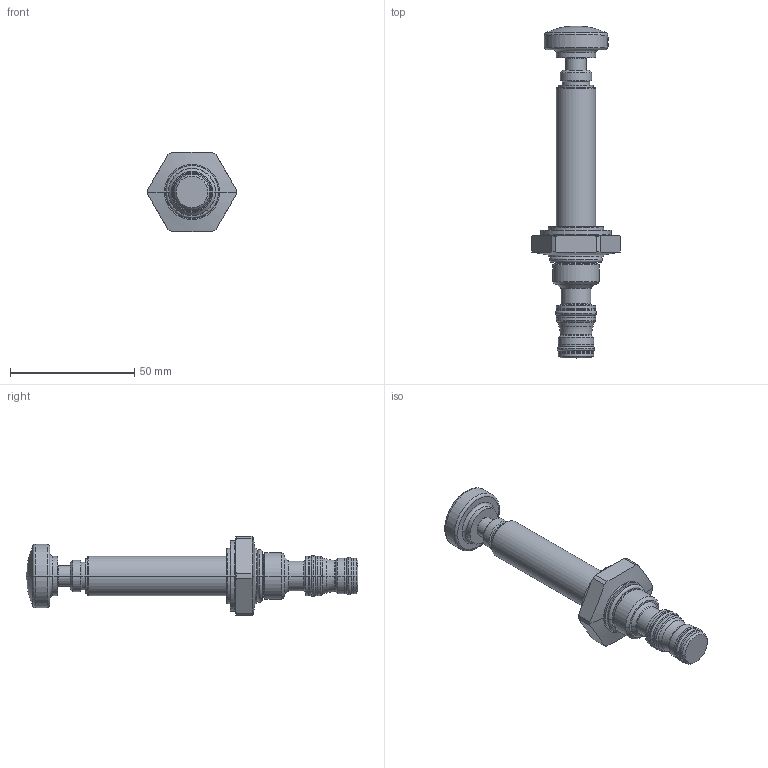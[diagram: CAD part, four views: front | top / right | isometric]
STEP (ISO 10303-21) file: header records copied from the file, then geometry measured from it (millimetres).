
FILE_DESCRIPTION((''),'2;1');
FILE_NAME('PRT0016','2009-03-04T',('jcs'),(''),'PRO/ENGINEER BY PARAMETRIC TECHNOLOGY CORPORATION, 2008010','PRO/ENGINEER BY PARAMETRIC TECHNOLOGY CORPORATION, 2008010','');
FILE_SCHEMA(('CONFIG_CONTROL_DESIGN'));
Length unit declared in the file: inch
Products named in the file (1): PRT0016
Bounding box: 35.69 x 133.35 x 31.75 mm (x, y, z)
Volume: 33181.7 mm3; surface area: 11325.3 mm2
Topology: 5 solids, 5 shells, 202 faces, 427 edges, 249 vertices
Faces by surface type: cylinder 66, cone 44, plane 36, torus 30, revolution 24, sphere 2
Entity records: 5973 total; most frequent: CARTESIAN_POINT 1498, DIRECTION 1013, ORIENTED_EDGE 850, AXIS2_PLACEMENT_3D 432, EDGE_CURVE 425, CIRCLE 254, VERTEX_POINT 249, EDGE_LOOP 224
